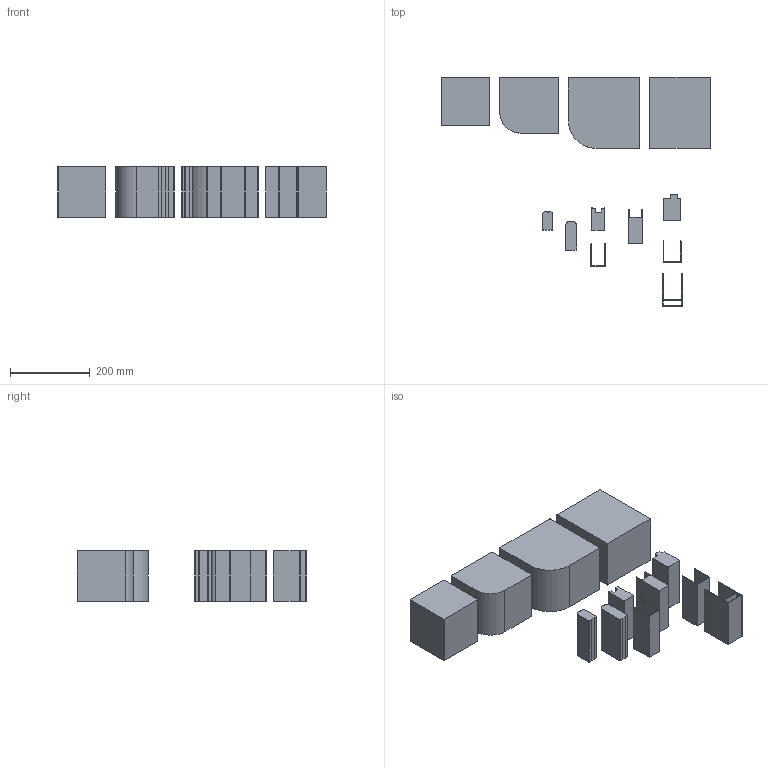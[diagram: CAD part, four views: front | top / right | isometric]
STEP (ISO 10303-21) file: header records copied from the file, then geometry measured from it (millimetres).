
FILE_DESCRIPTION(/* description */ ('Alibre Inc.'),/* implementation_level */ '2;1');
FILE_NAME(/* name */ 'export-3CF809CE-7B8A-4E37-B339-FE89BCEC732E',/* time_stamp */ '2025-02-11T11:09:06-05:00',/* author */ (''),/* organization */ (''),/* preprocessor_version */ 'ST-DEVELOPER v17',/* originating_system */ 'Alibre',/* authorisation */ '');
FILE_SCHEMA (('CONFIG_CONTROL_DESIGN'));
Length unit declared in the file: inch
Bounding box: 673.1 x 573.99 x 127 mm (x, y, z)
Volume: 13022127.9 mm3; surface area: 774455 mm2
Topology: 12 solids, 12 shells, 207 faces, 549 edges, 366 vertices
Faces by surface type: plane 112, cylinder 95
Entity records: 6430 total; most frequent: CARTESIAN_POINT 1122, ORIENTED_EDGE 1098, DIRECTION 1041, EDGE_CURVE 549, AXIS2_PLACEMENT_3D 397, VERTEX_POINT 366, VECTOR 359, LINE 359
